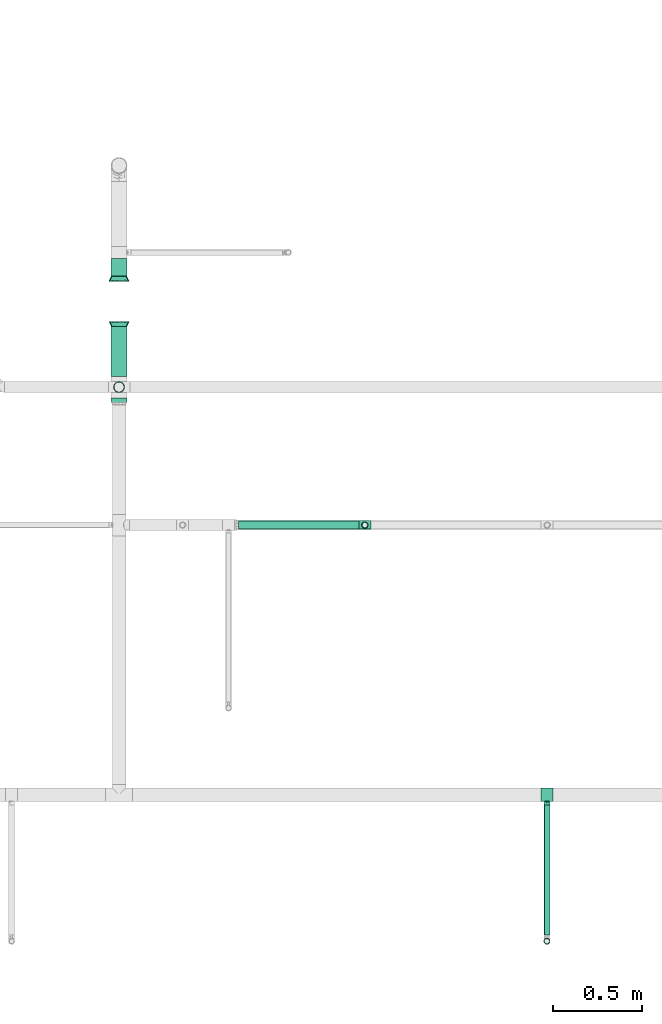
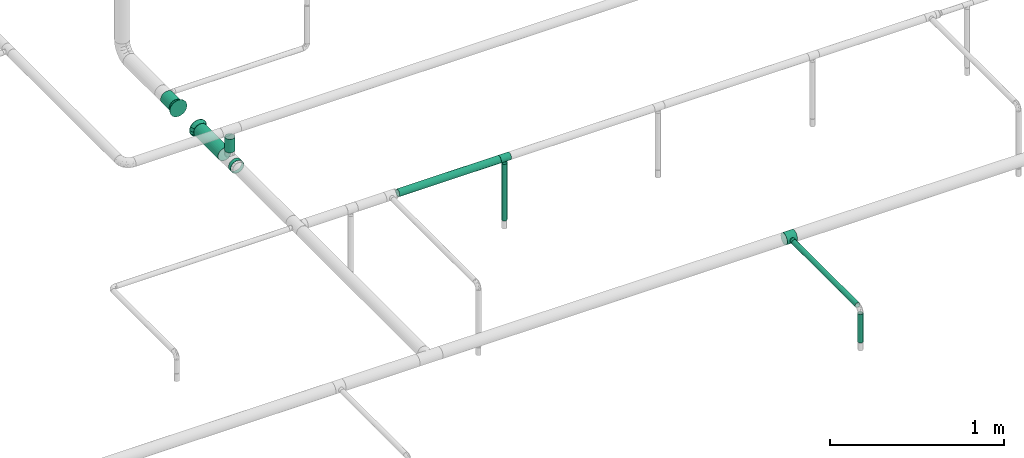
# One storey, part 4 of 45: 8 flow segments, 4 flow fittings.
"""IFC2X3 building model written with IfcOpenShell, lengths in millimetres."""

from ifc_helpers import new_model, entity, si_unit, converted_unit, derived_unit, direction, frame, origin_with_axes, origin_2d_with_axis, place, context, subcontext, project, spatial, hollow_circle, extrude, open_shell, surface_model, source, transform, mapped, type_object, element, save


model = new_model("IFC2X3")

# Units and contexts
model_context = context("Model", 3, precision=0.01, world=frame((0.0, 4.29681676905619e-09, 0.0)), true_north=direction((4.01073788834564e-13, 1.0)))
plan_context = context("Plan", 3, precision=0.01, world=frame((0.0, 4.29681676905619e-09, 0.0)), true_north=direction((4.01073788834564e-13, 1.0)))
body_context = subcontext(model_context, "Body", "Model", "MODEL_VIEW")
ifc_project = project(units=[converted_unit("PLANEANGLEUNIT", "DEGREE", entity("IfcPositiveLengthMeasure", 0.0174532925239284), si_unit("PLANEANGLEUNIT", "RADIAN"), dimensions=[0, 0, 0, 0, 0, 0, 0]), si_unit("AREAUNIT", "SQUARE_METRE"), si_unit("LENGTHUNIT", "METRE", prefix="MILLI"), si_unit("MASSUNIT", "GRAM", prefix="KILO"), si_unit("POWERUNIT", "WATT"), si_unit("PRESSUREUNIT", "PASCAL", prefix="KILO"), si_unit("FORCEUNIT", "NEWTON", prefix="KILO"), si_unit("ELECTRICVOLTAGEUNIT", "VOLT"), si_unit("ELECTRICCURRENTUNIT", "AMPERE"), si_unit("THERMODYNAMICTEMPERATUREUNIT", "DEGREE_CELSIUS"), si_unit("TIMEUNIT", "SECOND"), si_unit("VOLUMEUNIT", "CUBIC_METRE"), derived_unit("LINEARVELOCITYUNIT", [(si_unit("LENGTHUNIT", "METRE"), 1), (si_unit("TIMEUNIT", "SECOND"), -1)]), derived_unit("VOLUMETRICFLOWRATEUNIT", [(si_unit("VOLUMEUNIT", "CUBIC_METRE"), 1), (si_unit("TIMEUNIT", "SECOND"), -1)]), derived_unit("THERMALTRANSMITTANCEUNIT", [(si_unit("POWERUNIT", "WATT"), 1), (si_unit("THERMODYNAMICTEMPERATUREUNIT", "KELVIN"), -1), (si_unit("AREAUNIT", "SQUARE_METRE"), -1)]), derived_unit("SOUNDPRESSUREUNIT", [(si_unit("PRESSUREUNIT", "PASCAL"), 1)])], contexts=[model_context, plan_context])

# Site, building, storey
site_placement = place(None, frame((0.0, -4.29681676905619e-09, 0.0), z_axis=(0.0, 0.0, 1.0), x_axis=(1.0, 0.0, 0.0)))
site = spatial("IfcSite", under=ifc_project, at=site_placement, CompositionType="ELEMENT")
building_placement = place(site_placement, frame((0.0, 4.29681676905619e-09, 0.0), z_axis=(0.0, 0.0, 1.0), x_axis=(1.0, 0.0, 0.0)))
building = spatial("IfcBuilding", under=site, at=building_placement, Name="mc-building", CompositionType="ELEMENT")
storey_placement = place(building_placement, frame((0.0, 0.0, 210200.0), z_axis=(0.0, 0.0, 1.0), x_axis=(1.0, 0.0, 0.0)))
storey = spatial("IfcBuildingStorey", under=building, at=storey_placement, Name="Nivå F - 0,7 m", CompositionType="ELEMENT", Elevation=210200.0)

# Flow fittings
pipe_fitting_type_1 = type_object("IfcPipeFittingType", Name="magi_pipe_fe_tee_centric_90_001", PredefinedType="JUNCTION")
shared_shape_1 = source(origin_with_axes(), body_context, "Body", "SurfaceModel", [
    surface_model("IfcShellBasedSurfaceModel", [(-33.8, 9.86101, -36.80177), (-33.8, 0.0, -38.1), (-33.8, 36.80177, -9.86101), (-33.8, 19.05, -32.99557), (-33.8, 32.99557, -19.05), (-33.8, 26.94077, -26.94077), (-33.8, -38.1, 0.0), (-33.8, -19.05, -32.99557), (-33.8, -26.94077, -26.94077), (-33.8, -9.86101, -36.80177), (-33.8, -32.99557, -19.05), (-33.8, -36.80177, -9.86101), (-33.8, 38.1, 0.0), (-33.8, 32.99557, 19.05), (-33.8, 36.80177, 9.86101), (-33.8, -36.80177, 9.86101), (-33.8, 19.05, 32.99557), (-33.8, 26.94077, 26.94077), (-33.8, 9.86101, 36.80177), (-33.8, 0.0, 38.1), (-33.8, -26.94077, 26.94077), (-33.8, -32.99557, 19.05), (-33.8, -9.86101, 36.80177), (-33.8, -19.05, 32.99557), (33.8, 0.0, -38.1), (33.8, 9.86101, -36.80177), (33.8, 19.05, -32.99557), (33.8, 26.94077, -26.94077), (33.8, 32.99557, -19.05), (33.8, 36.80177, -9.86101), (33.8, -38.1, 0.0), (33.8, -9.86101, -36.80177), (33.8, -26.94077, -26.94077), (33.8, -19.05, -32.99557), (33.8, -32.99557, -19.05), (33.8, -36.80177, -9.86101), (33.8, 36.80177, 9.86101), (33.8, 32.99557, 19.05), (33.8, 19.05, 32.99557), (33.8, 0.0, 38.1), (33.8, 26.94077, 26.94077), (33.8, 9.86101, 36.80177), (33.8, -26.94077, 26.94077), (33.8, -32.99557, 19.05), (33.8, -36.80177, 9.86101), (33.8, -19.05, 32.99557), (33.8, -9.86101, 36.80177), (33.8, 38.1, 0.0), (33.8, -37.45089, 4.9305), (15.86072, -37.65053, 5.83504), (16.9, -38.1, 0.0), (12.92726, -36.51183, 10.88559), (2.96752, -34.27545, 16.63742), (33.8, -34.89867, 14.4555), (8.48894, -35.18611, 14.61328), (-8.4904, -35.18646, 14.61243), (-33.8, -34.89867, 14.4555), (-15.8612, -37.65073, 5.83372), (-33.8, -37.45089, 4.9305), (-16.9, -38.1, 0.0), (-12.9317, -36.51341, 10.88031), (-2.97221, -34.27585, 16.63658), (-33.8, -37.45089, -4.9305), (-15.8612, -37.65073, -5.83372), (15.86072, -37.65053, -5.83504), (33.8, -37.45089, -4.9305), (-12.9317, -36.51341, -10.88031), (-33.8, -34.89867, -14.4555), (-8.4904, -35.18646, -14.61243), (2.96752, -34.27545, -16.63742), (8.48894, -35.18611, -14.61328), (33.8, -34.89867, -14.4555), (12.92726, -36.51183, -10.88559), (-2.97221, -34.27585, -16.63658), (4.37404, -57.15, -16.32415), (-16.9, -57.15, 0.0), (0.0, -57.15, -16.9), (14.63583, -57.15, -8.45), (8.45, -57.15, -14.63583), (16.32415, -57.15, -4.37404), (11.9501, -57.15, -11.9501), (-11.9501, -57.15, -11.9501), (-8.45, -57.15, -14.63583), (-4.37404, -57.15, -16.32415), (-14.63583, -57.15, -8.45), (-16.32415, -57.15, -4.37404), (16.9, -57.15, 0.0), (8.45, -57.15, 14.63583), (16.32415, -57.15, 4.37404), (14.63583, -57.15, 8.45), (-8.45, -57.15, 14.63583), (11.9501, -57.15, 11.9501), (4.37404, -57.15, 16.32415), (-16.32415, -57.15, 4.37404), (-11.9501, -57.15, 11.9501), (-14.63583, -57.15, 8.45), (0.0, -57.15, 16.9), (-4.37404, -57.15, 16.32415), (-16.3806, -37.87537, 2.91686), (-5.7313, -34.73116, 15.62451), (-0.00235, -34.27565, 16.637), (5.72823, -34.73078, 15.62535), (16.38036, -37.87526, 2.91752), (16.38036, -37.87526, -2.91752), (5.72823, -34.73078, -15.62535), (-0.00235, -34.27565, -16.637), (-5.7313, -34.73116, -15.62451), (-16.3806, -37.87537, -2.91686)], [open_shell([[[0, 1, 2]], [[3, 0, 2]], [[2, 4, 5]], [[3, 2, 5]], [[6, 2, 1]], [[7, 8, 9]], [[8, 1, 9]], [[10, 11, 8]], [[6, 8, 11]], [[8, 6, 1]], [[6, 12, 2]], [[13, 14, 12]], [[15, 13, 6]], [[16, 13, 15]], [[17, 13, 16]], [[18, 16, 19]], [[20, 19, 21]], [[16, 15, 21]], [[22, 19, 23]], [[20, 23, 19]], [[21, 19, 16]], [[12, 6, 13]], [[24, 25, 26]], [[24, 26, 27]], [[27, 28, 29]], [[24, 27, 30]], [[30, 27, 29]], [[31, 32, 33]], [[31, 24, 32]], [[34, 30, 35]], [[30, 34, 32]], [[24, 30, 32]], [[29, 36, 30]], [[36, 37, 30]], [[30, 37, 38]], [[38, 39, 30]], [[38, 37, 40]], [[39, 38, 41]], [[30, 42, 43]], [[44, 30, 43]], [[45, 39, 46]], [[45, 42, 30]], [[30, 39, 45]], [[36, 29, 47]], [[48, 44, 49]], [[50, 30, 48]], [[44, 51, 49]], [[43, 42, 52]], [[50, 48, 49]], [[44, 53, 51]], [[52, 54, 43]], [[42, 20, 52]], [[54, 53, 43]], [[55, 21, 56]], [[57, 58, 59]], [[6, 59, 58]], [[57, 60, 15]], [[55, 61, 21]], [[51, 53, 54]], [[15, 60, 56]], [[21, 61, 20]], [[56, 60, 55]], [[61, 52, 20]], [[57, 15, 58]], [[42, 23, 20]], [[19, 46, 39]], [[22, 45, 46]], [[18, 39, 41]], [[37, 36, 14]], [[17, 38, 40]], [[13, 40, 37]], [[41, 38, 16]], [[12, 36, 47]], [[23, 45, 22]], [[22, 46, 19]], [[18, 19, 39]], [[41, 16, 18]], [[16, 38, 17]], [[13, 17, 40]], [[14, 13, 37]], [[36, 12, 14]], [[45, 23, 42]], [[12, 47, 29]], [[29, 28, 2]], [[59, 62, 63]], [[27, 4, 28]], [[9, 24, 31]], [[0, 26, 25]], [[64, 35, 65]], [[24, 1, 25]], [[31, 33, 7]], [[27, 26, 5]], [[66, 67, 68]], [[4, 2, 28]], [[12, 29, 2]], [[27, 5, 4]], [[3, 26, 0]], [[26, 3, 5]], [[0, 25, 1]], [[9, 1, 24]], [[31, 7, 9]], [[33, 8, 7]], [[32, 34, 69]], [[70, 34, 71]], [[70, 69, 34]], [[35, 72, 71]], [[32, 69, 8]], [[30, 50, 65]], [[64, 72, 35]], [[64, 65, 50]], [[72, 70, 71]], [[73, 68, 10]], [[10, 8, 73]], [[68, 67, 10]], [[73, 8, 69]], [[66, 63, 11]], [[63, 62, 11]], [[62, 59, 6]], [[11, 67, 66]], [[32, 8, 33]], [[74, 75, 76]], [[77, 74, 78]], [[77, 79, 74]], [[77, 78, 80]], [[75, 74, 79]], [[76, 81, 82]], [[82, 83, 76]], [[84, 75, 85]], [[81, 76, 84]], [[75, 84, 76]], [[79, 86, 75]], [[87, 86, 88]], [[87, 88, 89]], [[90, 75, 87]], [[87, 89, 91]], [[90, 87, 92]], [[93, 94, 95]], [[94, 93, 90]], [[90, 96, 97]], [[93, 75, 90]], [[92, 96, 90]], [[87, 75, 86]], [[93, 98, 75]], [[60, 95, 94]], [[93, 95, 57]], [[94, 90, 55]], [[98, 59, 75]], [[57, 95, 60]], [[97, 61, 99]], [[55, 60, 94]], [[96, 52, 100]], [[87, 101, 92]], [[99, 90, 97]], [[99, 55, 90]], [[93, 57, 98]], [[92, 52, 96]], [[49, 89, 88]], [[102, 86, 50]], [[102, 49, 88]], [[91, 89, 51]], [[96, 61, 97]], [[101, 52, 92]], [[87, 54, 101]], [[87, 91, 54]], [[54, 91, 51]], [[51, 89, 49]], [[86, 102, 88]], [[100, 61, 96]], [[79, 103, 86]], [[72, 77, 80]], [[79, 77, 64]], [[80, 78, 70]], [[103, 50, 86]], [[64, 77, 72]], [[74, 69, 104]], [[70, 72, 80]], [[76, 73, 105]], [[82, 106, 83]], [[107, 75, 59]], [[104, 78, 74]], [[104, 70, 78]], [[68, 82, 81]], [[79, 64, 103]], [[63, 84, 85]], [[107, 63, 85]], [[84, 66, 81]], [[76, 69, 74]], [[83, 106, 73]], [[73, 76, 83]], [[68, 106, 82]], [[68, 81, 66]], [[66, 84, 63]], [[75, 107, 85]], [[105, 69, 76]]])]),
])
flow_fitting_1_placement = place(storey_placement, frame((326513.2, 460120.00018, 2938.0), z_axis=(0.0, 0.0, -1.0), x_axis=(-1.0, 0.0, 0.0)))
element("IfcFlowFitting", 1, at=flow_fitting_1_placement, inside=storey, type_object=pipe_fitting_type_1, Name="magi_pipe_fe_tee_centric_90_001", context=body_context, shape_type="MappedRepresentation", body=[
    mapped(shared_shape_1, transform((0.0, 0.0, 0.0), scale=1.0)),
])
pipe_fitting_type_2 = type_object("IfcPipeFittingType", Name="magi_pipe_fe_reducer_centric_short_001", PredefinedType="TRANSITION")
shared_shape_2 = source(origin_with_axes(), body_context, "Body", "SurfaceModel", [
    surface_model("IfcShellBasedSurfaceModel", [(27.4, 22.25, -38.53813), (27.4, -42.9837, -11.51745), (27.4, 11.51745, -42.9837), (27.4, 42.9837, -11.51745), (27.4, 31.46625, -31.46625), (27.4, 44.5, 0.0), (27.4, 38.53813, -22.25), (27.4, 0.0, -44.5), (27.4, -22.25, -38.53813), (27.4, -11.51745, -42.9837), (27.4, -31.46625, -31.46625), (27.4, -38.53813, -22.25), (27.4, 42.9837, 11.51745), (27.4, 38.53813, 22.25), (27.4, 31.46625, 31.46625), (27.4, -42.9837, 11.51745), (27.4, 11.51745, 42.9837), (27.4, 22.25, 38.53813), (27.4, -31.46625, 31.46625), (27.4, 0.0, 44.5), (27.4, -38.53813, 22.25), (27.4, -44.5, 0.0), (27.4, -11.51745, 42.9837), (27.4, -22.25, 38.53813), (25.4, 0.0, 44.5), (25.4, 11.51745, 42.9837), (25.4, 22.25, 38.53813), (25.4, 31.46625, 31.46625), (25.4, 38.53813, 22.25), (25.4, 42.9837, 11.51745), (25.4, -31.46625, 31.46625), (25.4, -42.9837, 11.51745), (25.4, -11.51745, 42.9837), (25.4, -22.25, 38.53813), (25.4, -38.53813, 22.25), (25.4, -42.9837, -11.51745), (25.4, -44.5, 0.0), (25.4, 22.25, -38.53813), (25.4, 44.5, 0.0), (25.4, 42.9837, -11.51745), (25.4, 31.46625, -31.46625), (25.4, 38.53813, -22.25), (25.4, 11.51745, -42.9837), (25.4, -31.46625, -31.46625), (25.4, -38.53813, -22.25), (25.4, -22.25, -38.53813), (25.4, 0.0, -44.5), (25.4, -11.51745, -42.9837), (-2.0, 14.80445, 55.25096), (-2.0, -14.80445, 55.25096), (-2.0, 0.0, 57.2), (-2.0, 40.44651, 40.44651), (-2.0, 28.6, 49.53665), (-2.0, 49.53665, 28.6), (-2.0, 55.25096, 14.80445), (-2.0, -40.44651, 40.44651), (-2.0, -28.6, 49.53665), (-2.0, -55.25096, 14.80445), (-2.0, -49.53665, 28.6), (-2.0, -57.2, 0.0), (-2.0, -49.53665, -28.6), (-2.0, 28.6, -49.53665), (-2.0, 57.2, 0.0), (-2.0, 55.25096, -14.80445), (-2.0, 49.53665, -28.6), (-2.0, 14.80445, -55.25096), (-2.0, 40.44651, -40.44651), (-2.0, 0.0, -57.2), (-2.0, -40.44651, -40.44651), (-2.0, -55.25096, -14.80445), (-2.0, -28.6, -49.53665), (-2.0, -14.80445, -55.25096), (0.0, 55.25096, -14.80445), (0.0, 14.80445, -55.25096), (0.0, 28.6, -49.53665), (0.0, 49.53665, -28.6), (0.0, 40.44651, -40.44651), (0.0, 0.0, -57.2), (0.0, -57.2, 0.0), (0.0, -28.6, -49.53665), (0.0, -14.80445, -55.25096), (0.0, -40.44651, -40.44651), (0.0, -49.53665, -28.6), (0.0, -55.25096, -14.80445), (0.0, 57.2, 0.0), (0.0, 55.25096, 14.80445), (0.0, 49.53665, 28.6), (0.0, 40.44651, 40.44651), (0.0, 14.80445, 55.25096), (0.0, -40.44651, 40.44651), (0.0, 28.6, 49.53665), (0.0, -14.80445, 55.25096), (0.0, 0.0, 57.2), (0.0, -55.25096, 14.80445), (0.0, -49.53665, 28.6), (0.0, -28.6, 49.53665), (0.0, 12.7282, 55.76588), (0.0, 35.66362, 44.72076), (0.0, 51.53542, 24.81815), (0.0, -35.66362, 44.72076), (0.0, -12.7282, 55.76588), (0.0, -51.53542, 24.81815), (0.0, 12.7282, -55.76588), (0.0, 51.53542, -24.81815), (0.0, 35.66362, -44.72076), (0.0, -51.53542, -24.81815), (0.0, -35.66362, -44.72076), (0.0, -12.7282, -55.76588), (25.4, 41.51906, -11.125), (0.0, -43.59952, -34.76946), (25.4, -30.39407, -30.39407), (0.0, 43.59952, -34.76946), (0.0, 54.36771, -12.40908), (0.0, -54.36771, -12.40908), (25.4, -41.51906, -11.125), (0.0, -24.19591, -50.24332), (0.0, 0.0, -55.76588), (25.4, 30.39407, -30.39407), (25.4, -11.125, -41.51906), (0.0, 24.19591, -50.24332), (25.4, 11.125, -41.51906), (25.4, -41.51906, 11.125), (0.0, 43.59952, 34.76946), (25.4, 30.39407, 30.39407), (0.0, -43.59952, 34.76946), (0.0, -54.36771, 12.40908), (0.0, 54.36771, 12.40908), (25.4, 41.51906, 11.125), (0.0, 24.19591, 50.24332), (0.0, 0.0, 55.76588), (25.4, -30.39407, 30.39407), (25.4, 11.125, 41.51906), (0.0, -24.19591, 50.24332), (25.4, -11.125, 41.51906)], [open_shell([[[0, 1, 2]], [[3, 0, 4]], [[3, 5, 0]], [[3, 4, 6]], [[1, 0, 5]], [[7, 8, 9]], [[8, 7, 1]], [[10, 1, 11]], [[1, 10, 8]], [[7, 2, 1]], [[5, 12, 1]], [[12, 13, 14]], [[15, 12, 14]], [[15, 14, 16]], [[16, 14, 17]], [[18, 16, 19]], [[15, 18, 20]], [[21, 1, 15]], [[18, 22, 23]], [[18, 15, 16]], [[22, 18, 19]], [[15, 1, 12]], [[24, 25, 26]], [[24, 26, 27]], [[27, 28, 29]], [[24, 27, 30]], [[31, 27, 29]], [[32, 30, 33]], [[32, 24, 30]], [[30, 31, 34]], [[30, 27, 31]], [[35, 36, 31]], [[31, 29, 35]], [[37, 38, 39]], [[40, 39, 41]], [[37, 42, 38]], [[37, 39, 40]], [[38, 42, 35]], [[35, 43, 44]], [[43, 35, 45]], [[45, 46, 47]], [[46, 45, 35]], [[35, 42, 46]], [[38, 35, 29]], [[35, 1, 36]], [[44, 11, 35]], [[8, 43, 45]], [[44, 43, 10]], [[9, 45, 47]], [[35, 11, 1]], [[1, 21, 36]], [[9, 8, 45]], [[10, 43, 8]], [[10, 11, 44]], [[7, 9, 47]], [[47, 46, 7]], [[42, 2, 46]], [[37, 0, 42]], [[6, 40, 41]], [[37, 40, 4]], [[3, 41, 39]], [[37, 4, 0]], [[0, 2, 42]], [[5, 3, 39]], [[6, 41, 3]], [[6, 4, 40]], [[38, 5, 39]], [[46, 2, 7]], [[29, 12, 38]], [[28, 13, 29]], [[17, 27, 26]], [[28, 27, 14]], [[16, 26, 25]], [[29, 13, 12]], [[12, 5, 38]], [[16, 17, 26]], [[14, 27, 17]], [[14, 13, 28]], [[19, 16, 25]], [[25, 24, 19]], [[32, 22, 24]], [[33, 23, 32]], [[20, 30, 34]], [[33, 30, 18]], [[15, 34, 31]], [[33, 18, 23]], [[23, 22, 32]], [[21, 15, 31]], [[20, 34, 15]], [[20, 18, 30]], [[36, 21, 31]], [[24, 22, 19]], [[48, 49, 50]], [[51, 48, 52]], [[51, 53, 54]], [[51, 54, 48]], [[49, 48, 54]], [[49, 55, 56]], [[49, 54, 55]], [[55, 57, 58]], [[57, 55, 59]], [[54, 59, 55]], [[54, 60, 59]], [[61, 62, 63]], [[61, 63, 64]], [[61, 65, 62]], [[61, 64, 66]], [[62, 65, 67]], [[60, 67, 68]], [[69, 59, 60]], [[70, 67, 71]], [[67, 70, 68]], [[62, 67, 60]], [[60, 54, 62]], [[72, 73, 74]], [[75, 74, 76]], [[77, 73, 78]], [[72, 74, 75]], [[73, 72, 78]], [[77, 79, 80]], [[79, 77, 81]], [[77, 82, 81]], [[83, 82, 78]], [[78, 82, 77]], [[72, 84, 85]], [[85, 86, 87]], [[85, 87, 88]], [[85, 88, 89]], [[88, 87, 90]], [[91, 88, 92]], [[93, 89, 94]], [[89, 93, 78]], [[89, 91, 95]], [[89, 78, 85]], [[88, 91, 89]], [[85, 78, 72]], [[69, 83, 59]], [[60, 82, 69]], [[79, 68, 70]], [[60, 68, 81]], [[80, 70, 71]], [[69, 82, 83]], [[83, 78, 59]], [[80, 79, 70]], [[81, 68, 79]], [[81, 82, 60]], [[77, 80, 71]], [[71, 67, 77]], [[65, 73, 67]], [[61, 74, 65]], [[75, 66, 64]], [[61, 66, 76]], [[72, 64, 63]], [[61, 76, 74]], [[74, 73, 65]], [[84, 72, 63]], [[75, 64, 72]], [[75, 76, 66]], [[62, 84, 63]], [[67, 73, 77]], [[54, 85, 62]], [[53, 86, 54]], [[90, 51, 52]], [[53, 51, 87]], [[88, 52, 48]], [[54, 86, 85]], [[85, 84, 62]], [[88, 90, 52]], [[87, 51, 90]], [[87, 86, 53]], [[92, 88, 48]], [[48, 50, 92]], [[49, 91, 50]], [[56, 95, 49]], [[94, 55, 58]], [[56, 55, 89]], [[93, 58, 57]], [[56, 89, 95]], [[95, 91, 49]], [[78, 93, 57]], [[94, 58, 93]], [[94, 89, 55]], [[59, 78, 57]], [[50, 91, 92]], [[26, 24, 33]], [[26, 33, 34]], [[26, 38, 28]], [[38, 26, 34]], [[34, 45, 38]], [[44, 45, 34]], [[46, 38, 45]], [[37, 41, 38]], [[38, 46, 37]], [[36, 44, 34]], [[96, 97, 98]], [[96, 98, 78]], [[99, 100, 78]], [[78, 101, 99]], [[100, 96, 78]], [[98, 102, 78]], [[103, 104, 98]], [[102, 98, 104]], [[105, 78, 106]], [[78, 107, 106]], [[102, 107, 78]], [[84, 103, 98]], [[41, 103, 108]], [[109, 106, 110]], [[109, 44, 105]], [[111, 103, 41]], [[38, 112, 84]], [[36, 113, 114]], [[38, 108, 112]], [[45, 106, 115]], [[46, 116, 102]], [[41, 117, 111]], [[108, 103, 112]], [[118, 45, 115]], [[119, 104, 37]], [[117, 104, 111]], [[107, 46, 118]], [[113, 36, 78]], [[117, 37, 104]], [[107, 118, 115]], [[119, 120, 102]], [[44, 109, 110]], [[114, 105, 44]], [[106, 45, 110]], [[120, 119, 37]], [[46, 107, 116]], [[120, 46, 102]], [[113, 105, 114]], [[34, 101, 121]], [[122, 97, 123]], [[122, 28, 98]], [[124, 101, 34]], [[36, 125, 78]], [[38, 126, 127]], [[36, 121, 125]], [[26, 97, 128]], [[24, 129, 100]], [[34, 130, 124]], [[121, 101, 125]], [[131, 26, 128]], [[132, 99, 33]], [[130, 99, 124]], [[96, 24, 131]], [[126, 38, 84]], [[130, 33, 99]], [[96, 131, 128]], [[132, 133, 100]], [[28, 122, 123]], [[127, 98, 28]], [[97, 26, 123]], [[133, 132, 33]], [[24, 96, 129]], [[133, 24, 100]], [[126, 98, 127]]])]),
])
for number, where, z_axis, x_axis, name in (
    (2, (324119.17326, 462994.18923, 2938.0), (0.0, 0.0, 1.0), (0.0, 1.0, 0.0), "magi_pipe_fe_reducer_centric_short_001"),
    (3, (324119.17326, 462765.38923, 2938.0), (0.0, 0.0, 1.0), (0.0, -1.0, 0.0), "magi_pipe_fe_reducer_centric_short_001"),
):
    element("IfcFlowFitting", number, at=place(storey_placement, frame(where, z_axis=z_axis, x_axis=x_axis)), inside=storey, type_object=pipe_fitting_type_2, Name=name, context=body_context, shape_type="MappedRepresentation", body=[
        mapped(shared_shape_2, transform((0.0, 0.0, 0.0), scale=1.0)),
    ])
shared_shape_3 = source(origin_with_axes(), body_context, "Body", "SurfaceModel", [
    surface_model("IfcShellBasedSurfaceModel", [(-33.8, 0.0, -24.2), (-33.8, -6.26342, -23.37541), (-33.8, 6.26342, -23.37541), (-33.8, 12.1, -20.95781), (-33.8, 17.11198, -17.11198), (-33.8, 20.95781, -12.1), (-33.8, -23.37541, -6.26342), (-33.8, 23.37541, -6.26342), (-33.8, -17.11198, -17.11198), (-33.8, -20.95781, -12.1), (-33.8, -12.1, -20.95781), (-33.8, -24.2, 0.0), (-33.8, -23.37541, 6.26342), (-33.8, 20.95781, 12.1), (-33.8, 23.37541, 6.26342), (-33.8, 24.2, 0.0), (-33.8, 12.1, 20.95781), (-33.8, 17.11198, 17.11198), (-33.8, -17.11198, 17.11198), (-33.8, 6.26342, 23.37541), (-33.8, -20.95781, 12.1), (-33.8, -12.1, 20.95781), (-33.8, -6.26342, 23.37541), (-33.8, 0.0, 24.2), (33.8, 6.26342, -23.37541), (33.8, -6.26342, -23.37541), (33.8, 0.0, -24.2), (33.8, 17.11198, -17.11198), (33.8, 12.1, -20.95781), (33.8, -23.37541, -6.26342), (33.8, 20.95781, -12.1), (33.8, 23.37541, -6.26342), (33.8, -17.11198, -17.11198), (33.8, -12.1, -20.95781), (33.8, -20.95781, -12.1), (33.8, -24.2, 0.0), (33.8, 24.2, 0.0), (33.8, 23.37541, 6.26342), (33.8, 20.95781, 12.1), (33.8, -23.37541, 6.26342), (33.8, -17.11198, 17.11198), (33.8, 12.1, 20.95781), (33.8, 17.11198, 17.11198), (33.8, 6.26342, 23.37541), (33.8, -20.95781, 12.1), (33.8, -12.1, 20.95781), (33.8, 0.0, 24.2), (33.8, -6.26342, 23.37541), (15.81824, -23.45734, 5.94922), (16.9, -24.2, 0.0), (12.87025, -21.57947, 10.95293), (33.8, -19.0349, 14.60599), (8.52813, -19.30697, 14.59044), (3.03527, -17.5853, 16.6252), (-3.04044, -17.58619, 16.62425), (-8.52961, -19.30762, 14.58958), (-33.8, -19.0349, 14.60599), (-16.9, -24.2, 0.0), (-15.81885, -23.45775, 5.9476), (-12.87368, -21.58151, 10.9489), (3.03527, -17.5853, -16.6252), (33.8, -19.0349, -14.60599), (8.52813, -19.30697, -14.59044), (-8.52961, -19.30762, -14.58958), (-33.8, -19.0349, -14.60599), (12.87025, -21.57947, -10.95293), (-3.04044, -17.58619, -16.62425), (15.81824, -23.45734, -5.94922), (-12.87368, -21.58151, -10.9489), (-15.81885, -23.45775, -5.9476), (4.37404, -36.3, -16.32415), (-16.9, -36.3, 0.0), (0.0, -36.3, -16.9), (14.63583, -36.3, -8.45), (8.45, -36.3, -14.63583), (16.32415, -36.3, -4.37404), (11.9501, -36.3, -11.9501), (-11.9501, -36.3, -11.9501), (-8.45, -36.3, -14.63583), (-4.37404, -36.3, -16.32415), (-14.63583, -36.3, -8.45), (-16.32415, -36.3, -4.37404), (16.9, -36.3, 0.0), (8.45, -36.3, 14.63583), (16.32415, -36.3, 4.37404), (14.63583, -36.3, 8.45), (-8.45, -36.3, 14.63583), (11.9501, -36.3, 11.9501), (4.37404, -36.3, 16.32415), (-16.32415, -36.3, 4.37404), (-11.9501, -36.3, 11.9501), (-14.63583, -36.3, 8.45), (0.0, -36.3, 16.9), (-4.37404, -36.3, 16.32415), (-16.35943, -23.82888, 2.9738), (16.35912, -23.82867, 2.97461), (-0.00259, -17.58575, 16.62472), (16.35912, -23.82867, -2.97461), (-0.00259, -17.58575, -16.62472), (-16.35943, -23.82888, -2.9738)], [open_shell([[[0, 1, 2]], [[3, 2, 4]], [[5, 2, 6]], [[4, 2, 5]], [[7, 5, 6]], [[8, 9, 10]], [[1, 10, 9]], [[1, 9, 2]], [[9, 6, 2]], [[6, 11, 7]], [[11, 12, 7]], [[13, 14, 15]], [[13, 15, 12]], [[16, 17, 18]], [[12, 17, 13]], [[19, 16, 18]], [[20, 18, 12]], [[18, 17, 12]], [[21, 22, 18]], [[23, 18, 22]], [[18, 23, 19]], [[7, 12, 15]], [[24, 25, 26]], [[27, 24, 28]], [[29, 24, 30]], [[30, 24, 27]], [[29, 30, 31]], [[25, 32, 33]], [[32, 25, 34]], [[24, 34, 25]], [[24, 29, 34]], [[31, 35, 29]], [[31, 36, 35]], [[36, 37, 38]], [[39, 36, 38]], [[40, 38, 41]], [[41, 38, 42]], [[40, 41, 43]], [[39, 40, 44]], [[39, 38, 40]], [[45, 46, 47]], [[46, 45, 40]], [[43, 46, 40]], [[36, 39, 35]], [[35, 39, 48]], [[48, 49, 35]], [[39, 50, 48]], [[51, 40, 52]], [[52, 50, 44]], [[53, 52, 40]], [[54, 53, 21]], [[44, 50, 39]], [[55, 18, 56]], [[57, 58, 11]], [[12, 11, 58]], [[58, 59, 12]], [[55, 54, 18]], [[55, 20, 59]], [[20, 55, 56]], [[59, 20, 12]], [[18, 54, 21]], [[52, 44, 51]], [[53, 40, 45]], [[23, 47, 46]], [[22, 45, 47]], [[19, 46, 43]], [[38, 37, 14]], [[17, 41, 42]], [[13, 42, 38]], [[43, 41, 16]], [[15, 37, 36]], [[21, 45, 22]], [[22, 47, 23]], [[19, 23, 46]], [[43, 16, 19]], [[16, 41, 17]], [[13, 17, 42]], [[14, 13, 38]], [[37, 15, 14]], [[45, 21, 53]], [[5, 31, 30]], [[7, 36, 31]], [[4, 30, 27]], [[26, 25, 1]], [[2, 28, 24]], [[0, 24, 26]], [[27, 28, 3]], [[10, 25, 33]], [[15, 36, 7]], [[7, 31, 5]], [[4, 5, 30]], [[27, 3, 4]], [[3, 28, 2]], [[0, 2, 24]], [[1, 0, 26]], [[25, 10, 1]], [[33, 60, 10]], [[61, 34, 62]], [[63, 9, 64]], [[62, 60, 32]], [[34, 65, 62]], [[66, 10, 60]], [[29, 35, 67]], [[67, 65, 29]], [[49, 67, 35]], [[29, 65, 34]], [[66, 63, 8]], [[62, 32, 61]], [[64, 8, 63]], [[63, 68, 9]], [[8, 10, 66]], [[68, 69, 6]], [[69, 11, 6]], [[11, 69, 57]], [[68, 6, 9]], [[60, 33, 32]], [[70, 71, 72]], [[73, 70, 74]], [[73, 75, 70]], [[73, 74, 76]], [[71, 70, 75]], [[72, 77, 78]], [[78, 79, 72]], [[80, 71, 81]], [[77, 72, 80]], [[71, 80, 72]], [[75, 82, 71]], [[83, 82, 84]], [[83, 84, 85]], [[86, 71, 83]], [[83, 85, 87]], [[86, 83, 88]], [[89, 90, 91]], [[90, 89, 86]], [[86, 92, 93]], [[89, 71, 86]], [[88, 92, 86]], [[83, 71, 82]], [[89, 94, 71]], [[59, 91, 90]], [[89, 91, 58]], [[90, 86, 55]], [[89, 58, 94]], [[94, 57, 71]], [[58, 91, 59]], [[95, 48, 84]], [[55, 93, 54]], [[55, 59, 90]], [[92, 53, 96]], [[55, 86, 93]], [[53, 92, 88]], [[83, 52, 88]], [[87, 85, 50]], [[87, 52, 83]], [[48, 85, 84]], [[87, 50, 52]], [[52, 53, 88]], [[82, 95, 84]], [[48, 50, 85]], [[95, 82, 49]], [[92, 54, 93]], [[96, 54, 92]], [[75, 97, 82]], [[65, 73, 76]], [[75, 73, 67]], [[76, 74, 62]], [[97, 49, 82]], [[67, 73, 65]], [[62, 70, 60]], [[62, 65, 76]], [[72, 66, 98]], [[62, 74, 70]], [[99, 71, 57]], [[99, 69, 81]], [[75, 67, 97]], [[79, 66, 72]], [[69, 80, 81]], [[77, 80, 68]], [[72, 60, 70]], [[79, 63, 66]], [[63, 79, 78]], [[78, 77, 63]], [[63, 77, 68]], [[68, 80, 69]], [[71, 99, 81]], [[98, 60, 72]]])]),
])
flow_fitting_2_placement = place(storey_placement, frame((325494.5, 461628.40208, 2938.0), z_axis=(0.0, 1.0, 0.0), x_axis=(-1.0, 0.0, 0.0)))
element("IfcFlowFitting", 4, at=flow_fitting_2_placement, inside=storey, type_object=pipe_fitting_type_1, Name="magi_pipe_fe_tee_centric_90_001", context=body_context, shape_type="MappedRepresentation", body=[
    mapped(shared_shape_3, transform((0.0, 0.0, 0.0), scale=1.0)),
])

# Flow segments
pipe_segment_type = type_object("IfcPipeSegmentType", Name="Stålrør normaltykke", PredefinedType="RIGIDSEGMENT")
shared_shape_4 = source(origin_with_axes(), body_context, "Body", "SweptSolid", [
    extrude(hollow_circle(Radius=44.5, WallThickness=2.0, at=origin_2d_with_axis()), frame((0.0, 0.0, 0.0), z_axis=(1.0, 0.0, 0.0), x_axis=(0.0, 1.0, 0.0)), (0.0, 0.0, 1.0), 25.0),
])
flow_segment_1_placement = place(storey_placement, frame((324119.17326, 462339.88184, 2938.0), z_axis=(0.0, 0.0, 1.0), x_axis=(0.0, -1.0, 0.0)))
element("IfcFlowSegment", 5, at=flow_segment_1_placement, inside=storey, type_object=pipe_segment_type, Name="Stålrør normaltykke", context=body_context, shape_type="MappedRepresentation", body=[
    mapped(shared_shape_4, transform((0.0, 0.0, 0.0), scale=1.0)),
])
shared_shape_5 = source(origin_with_axes(), body_context, "Body", "SweptSolid", [
    extrude(hollow_circle(Radius=16.9, WallThickness=2.0, at=origin_2d_with_axis()), frame((0.0, 0.0, 0.0), z_axis=(1.0, 0.0, 0.0), x_axis=(0.0, 1.0, 0.0)), (0.0, 0.0, 1.0), 397.7),
])
flow_segment_2_placement = place(storey_placement, frame((325494.5, 461628.40208, 2901.70000000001), z_axis=(0.0, 1.0, 0.0), x_axis=(0.0, 0.0, -1.0)))
element("IfcFlowSegment", 6, at=flow_segment_2_placement, inside=storey, type_object=pipe_segment_type, Name="Stålrør normaltykke", context=body_context, shape_type="MappedRepresentation", body=[
    mapped(shared_shape_5, transform((0.0, 0.0, 0.0), scale=1.0)),
])
shared_shape_6 = source(origin_with_axes(), body_context, "Body", "SweptSolid", [
    extrude(hollow_circle(Radius=24.1, WallThickness=2.0, at=origin_2d_with_axis()), frame((0.0, 0.0, 0.0), z_axis=(1.0, 0.0, 0.0), x_axis=(0.0, 1.0, 0.0)), (0.0, 0.0, 1.0), 674.5),
])
flow_segment_3_placement = place(storey_placement, frame((324786.17326, 461628.40208, 2938.0), z_axis=(0.0, 0.0, 1.0), x_axis=(1.0, 0.0, 0.0)))
element("IfcFlowSegment", 7, at=flow_segment_3_placement, inside=storey, type_object=pipe_segment_type, Name="Stålrør normaltykke", context=body_context, shape_type="MappedRepresentation", body=[
    mapped(shared_shape_6, transform((0.0, 0.0, 0.0), scale=1.0)),
])
shared_shape_7 = source(origin_with_axes(), body_context, "Body", "SweptSolid", [
    extrude(hollow_circle(Radius=30.1, WallThickness=2.0, at=origin_2d_with_axis()), frame((0.0, 0.0, 0.0), z_axis=(1.0, 0.0, 0.0), x_axis=(0.0, 1.0, 0.0)), (0.0, 0.0, 1.0), 95.0),
])
flow_segment_4_placement = place(storey_placement, frame((324119.17326, 462400.28184, 3004.75), z_axis=(-1.0, 0.0, 0.0), x_axis=(0.0, 0.0, 1.0)))
element("IfcFlowSegment", 8, at=flow_segment_4_placement, inside=storey, type_object=pipe_segment_type, Name="Stålrør normaltykke", context=body_context, shape_type="MappedRepresentation", body=[
    mapped(shared_shape_7, transform((0.0, 0.0, 0.0), scale=1.0)),
])
shared_shape_8 = source(origin_with_axes(), body_context, "Body", "SweptSolid", [
    extrude(hollow_circle(Radius=44.5, WallThickness=2.0, at=origin_2d_with_axis()), frame((0.0, 0.0, 0.0), z_axis=(1.0, 0.0, 0.0), x_axis=(0.0, 1.0, 0.0)), (0.0, 0.0, 1.0), 279.3),
])
flow_segment_5_placement = place(storey_placement, frame((324119.17326, 462739.98923, 2938.0), z_axis=(0.0, 0.0, 1.0), x_axis=(0.0, -1.0, 0.0)))
element("IfcFlowSegment", 9, at=flow_segment_5_placement, inside=storey, type_object=pipe_segment_type, Name="Stålrør normaltykke", context=body_context, shape_type="MappedRepresentation", body=[
    mapped(shared_shape_8, transform((0.0, 0.0, 0.0), scale=1.0)),
])
shared_shape_9 = source(origin_with_axes(), body_context, "Body", "SweptSolid", [
    extrude(hollow_circle(Radius=16.9, WallThickness=2.0, at=origin_2d_with_axis()), frame((0.0, 0.0, 0.0), z_axis=(1.0, 0.0, 0.0), x_axis=(0.0, 1.0, 0.0)), (0.0, 0.0, 1.0), 729.1),
])
flow_segment_6_placement = place(storey_placement, frame((326513.2, 459333.8, 2938.0), z_axis=(0.0, 0.0, 1.0), x_axis=(0.0, 1.0, 0.0)))
element("IfcFlowSegment", 10, at=flow_segment_6_placement, inside=storey, type_object=pipe_segment_type, Name="Stålrør normaltykke", context=body_context, shape_type="MappedRepresentation", body=[
    mapped(shared_shape_9, transform((0.0, 0.0, 0.0), scale=1.0)),
])
shared_shape_10 = source(origin_with_axes(), body_context, "Body", "SweptSolid", [
    extrude(hollow_circle(Radius=16.9, WallThickness=2.0, at=origin_2d_with_axis()), frame((0.0, 0.0, 0.0), z_axis=(1.0, 0.0, 0.0), x_axis=(0.0, 1.0, 0.0)), (0.0, 0.0, 1.0), 200.2),
])
flow_segment_7_placement = place(storey_placement, frame((326513.2, 459300.0, 2703.95199999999), z_axis=(0.0, 1.0, 0.0), x_axis=(0.0, 0.0, 1.0)))
element("IfcFlowSegment", 11, at=flow_segment_7_placement, inside=storey, type_object=pipe_segment_type, Name="Stålrør normaltykke", context=body_context, shape_type="MappedRepresentation", body=[
    mapped(shared_shape_10, transform((0.0, 0.0, 0.0), scale=1.0)),
])
shared_shape_11 = source(origin_with_axes(), body_context, "Body", "SweptSolid", [
    extrude(hollow_circle(Radius=44.5, WallThickness=2.0, at=origin_2d_with_axis()), frame((0.0, 0.0, 0.0), z_axis=(1.0, 0.0, 0.0), x_axis=(0.0, 1.0, 0.0)), (0.0, 0.0, 1.0), 100.0),
])
flow_segment_8_placement = place(storey_placement, frame((324119.17326, 463019.58923, 2938.0), z_axis=(0.0, 0.0, 1.0), x_axis=(0.0, 1.0, 0.0)))
element("IfcFlowSegment", 12, at=flow_segment_8_placement, inside=storey, type_object=pipe_segment_type, Name="Stålrør normaltykke", context=body_context, shape_type="MappedRepresentation", body=[
    mapped(shared_shape_11, transform((0.0, 0.0, 0.0), scale=1.0)),
])

save(model, "model.ifc")
